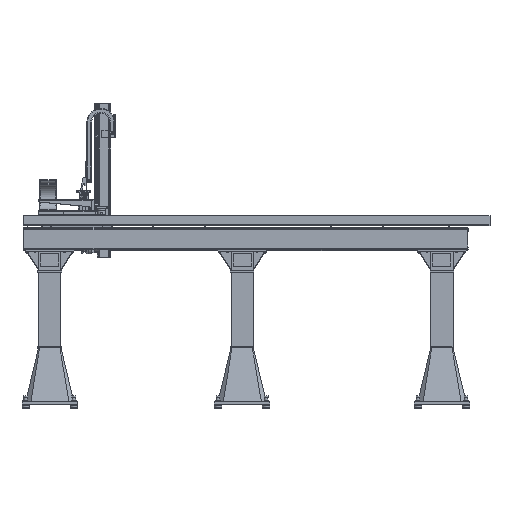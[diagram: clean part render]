
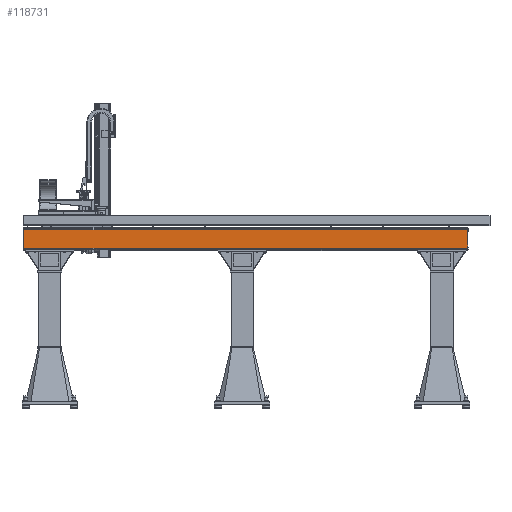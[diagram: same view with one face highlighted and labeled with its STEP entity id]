
A CAD part, top view. The second image highlights one B-rep face of the part: STEP entity #118731.
In plain terms, the highlighted planar face has unit normal (0, 0, 1) as drawn and (-1, 0, 0) by its records, which use the part's own axes.
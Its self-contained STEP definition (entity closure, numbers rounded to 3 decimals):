
#1561 = CARTESIAN_POINT ( 'NONE',  ( -150., 125., -6000. ) ) ;
#6203 = VERTEX_POINT ( 'NONE', #1561 ) ;
#7269 = VECTOR ( 'NONE', #113125, 1000. ) ;
#13473 = DIRECTION ( 'NONE',  ( 0., -1., 0. ) ) ;
#14114 = PLANE ( 'NONE',  #111091 ) ;
#22672 = VECTOR ( 'NONE', #48497, 1000. ) ;
#26399 = CARTESIAN_POINT ( 'NONE',  ( -150., 125., 0. ) ) ;
#30955 = VECTOR ( 'NONE', #113229, 1000. ) ;
#34956 = CARTESIAN_POINT ( 'NONE',  ( -150., 125., -6000. ) ) ;
#37462 = VERTEX_POINT ( 'NONE', #74242 ) ;
#37665 = LINE ( 'NONE', #67788, #22672 ) ;
#41445 = EDGE_CURVE ( 'NONE', #6203, #42180, #37665, .T. ) ;
#42180 = VERTEX_POINT ( 'NONE', #54480 ) ;
#43442 = EDGE_CURVE ( 'NONE', #86024, #37462, #73332, .T. ) ;
#48497 = DIRECTION ( 'NONE',  ( 0., -1., 0. ) ) ;
#54480 = CARTESIAN_POINT ( 'NONE',  ( -150., -125., -6000. ) ) ;
#62237 = DIRECTION ( 'NONE',  ( -1., 0., 0. ) ) ;
#63707 = CARTESIAN_POINT ( 'NONE',  ( -150., 125., 0. ) ) ;
#67788 = CARTESIAN_POINT ( 'NONE',  ( -150., 125., -6000. ) ) ;
#70153 = ORIENTED_EDGE ( 'NONE', *, *, #94622, .T. ) ;
#70631 = FACE_OUTER_BOUND ( 'NONE', #104770, .T. ) ;
#72557 = CARTESIAN_POINT ( 'NONE',  ( -150., -125., -6000. ) ) ;
#73185 = DIRECTION ( 'NONE',  ( 0., 0., 1. ) ) ;
#73332 = LINE ( 'NONE', #63707, #7269 ) ;
#74242 = CARTESIAN_POINT ( 'NONE',  ( -150., -125., 0. ) ) ;
#75132 = ORIENTED_EDGE ( 'NONE', *, *, #117933, .F. ) ;
#77321 = LINE ( 'NONE', #72557, #106726 ) ;
#80336 = ORIENTED_EDGE ( 'NONE', *, *, #43442, .F. ) ;
#86024 = VERTEX_POINT ( 'NONE', #26399 ) ;
#92693 = LINE ( 'NONE', #34956, #30955 ) ;
#94622 = EDGE_CURVE ( 'NONE', #42180, #37462, #77321, .T. ) ;
#104770 = EDGE_LOOP ( 'NONE', ( #80336, #75132, #113714, #70153 ) ) ;
#106726 = VECTOR ( 'NONE', #73185, 1000. ) ;
#111032 = CARTESIAN_POINT ( 'NONE',  ( -150., 125., -6000. ) ) ;
#111091 = AXIS2_PLACEMENT_3D ( 'NONE', #111032, #62237, #13473 ) ;
#113125 = DIRECTION ( 'NONE',  ( 0., -1., 0. ) ) ;
#113229 = DIRECTION ( 'NONE',  ( 0., 0., 1. ) ) ;
#113714 = ORIENTED_EDGE ( 'NONE', *, *, #41445, .T. ) ;
#117933 = EDGE_CURVE ( 'NONE', #6203, #86024, #92693, .T. ) ;
#118731 = ADVANCED_FACE ( 'NONE', ( #70631 ), #14114, .T. ) ;
